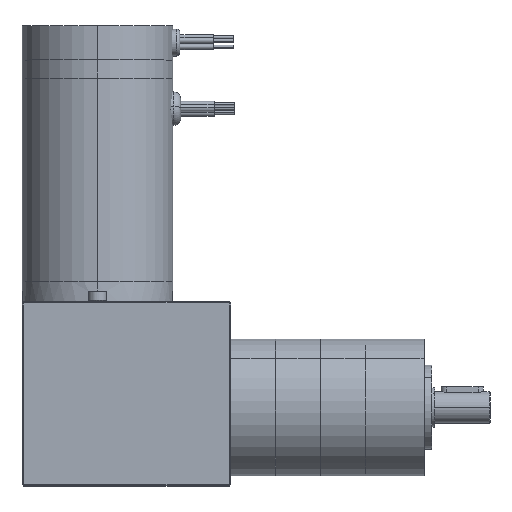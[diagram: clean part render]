
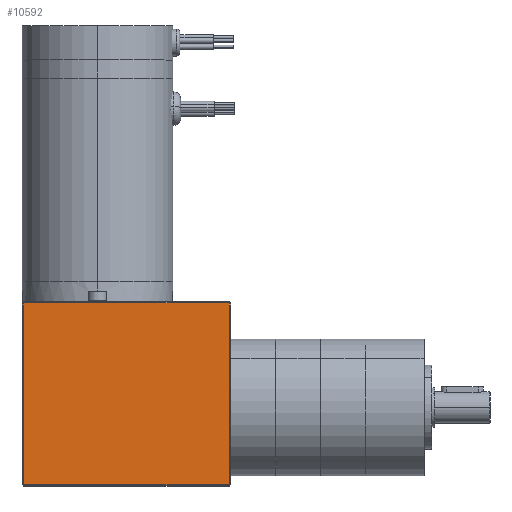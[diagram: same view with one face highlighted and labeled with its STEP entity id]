
A CAD part, top view. The second image highlights one B-rep face of the part: STEP entity #10592.
In plain terms, the highlighted planar face has unit normal (0, 0, 1).
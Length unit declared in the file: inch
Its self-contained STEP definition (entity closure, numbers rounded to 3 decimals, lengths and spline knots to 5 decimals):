
#158 = EDGE_CURVE ( 'NONE', #1672, #10522, #5089, .T. ) ;
#1664 = ORIENTED_EDGE ( 'NONE', *, *, #158, .T. ) ;
#1672 = VERTEX_POINT ( 'NONE', #13164 ) ;
#1989 = DIRECTION ( 'NONE',  ( 1., 0., 0. ) ) ;
#2230 = LINE ( 'NONE', #12411, #7361 ) ;
#2337 = CARTESIAN_POINT ( 'NONE',  ( 7.87404, 2.3952, 2.94555 ) ) ;
#4530 = CARTESIAN_POINT ( 'NONE',  ( 4.78104, 2.3752, 2.94555 ) ) ;
#4647 = EDGE_CURVE ( 'NONE', #10245, #15364, #15387, .T. ) ;
#5009 = ORIENTED_EDGE ( 'NONE', *, *, #9997, .T. ) ;
#5031 = CARTESIAN_POINT ( 'NONE',  ( 4.80104, -0.3348, 2.94555 ) ) ;
#5089 = LINE ( 'NONE', #13883, #7137 ) ;
#5195 = VECTOR ( 'NONE', #11436, 39.37008 ) ;
#5649 = CARTESIAN_POINT ( 'NONE',  ( 7.87404, -0.3348, 2.94555 ) ) ;
#5782 = CARTESIAN_POINT ( 'NONE',  ( 7.87404, 2.3752, 2.94555 ) ) ;
#6303 = ORIENTED_EDGE ( 'NONE', *, *, #4647, .T. ) ;
#6648 = EDGE_LOOP ( 'NONE', ( #13035, #6303, #5009, #1664 ) ) ;
#7137 = VECTOR ( 'NONE', #12787, 39.37008 ) ;
#7361 = VECTOR ( 'NONE', #1989, 39.37008 ) ;
#9093 = CARTESIAN_POINT ( 'NONE',  ( 6.33754, 1.0202, 2.94555 ) ) ;
#9151 = DIRECTION ( 'NONE',  ( 1., 0., 0. ) ) ;
#9997 = EDGE_CURVE ( 'NONE', #15364, #1672, #13516, .T. ) ;
#10245 = VERTEX_POINT ( 'NONE', #5649 ) ;
#10359 = EDGE_CURVE ( 'NONE', #10522, #10245, #2230, .T. ) ;
#10522 = VERTEX_POINT ( 'NONE', #5031 ) ;
#10592 = ADVANCED_FACE ( 'NONE', ( #12053 ), #13144, .T. ) ;
#10927 = DIRECTION ( 'NONE',  ( -1., 0., 0. ) ) ;
#11436 = DIRECTION ( 'NONE',  ( 0., 1., 0. ) ) ;
#12053 = FACE_OUTER_BOUND ( 'NONE', #6648, .T. ) ;
#12411 = CARTESIAN_POINT ( 'NONE',  ( 7.89404, -0.3348, 2.94555 ) ) ;
#12683 = VECTOR ( 'NONE', #10927, 39.37008 ) ;
#12787 = DIRECTION ( 'NONE',  ( 0., -1., 0. ) ) ;
#13035 = ORIENTED_EDGE ( 'NONE', *, *, #10359, .T. ) ;
#13144 = PLANE ( 'NONE',  #15102 ) ;
#13164 = CARTESIAN_POINT ( 'NONE',  ( 4.80104, 2.3752, 2.94555 ) ) ;
#13516 = LINE ( 'NONE', #4530, #12683 ) ;
#13883 = CARTESIAN_POINT ( 'NONE',  ( 4.80104, -0.3548, 2.94555 ) ) ;
#14456 = DIRECTION ( 'NONE',  ( 0., 0., 1. ) ) ;
#15102 = AXIS2_PLACEMENT_3D ( 'NONE', #9093, #14456, #9151 ) ;
#15364 = VERTEX_POINT ( 'NONE', #5782 ) ;
#15387 = LINE ( 'NONE', #2337, #5195 ) ;
